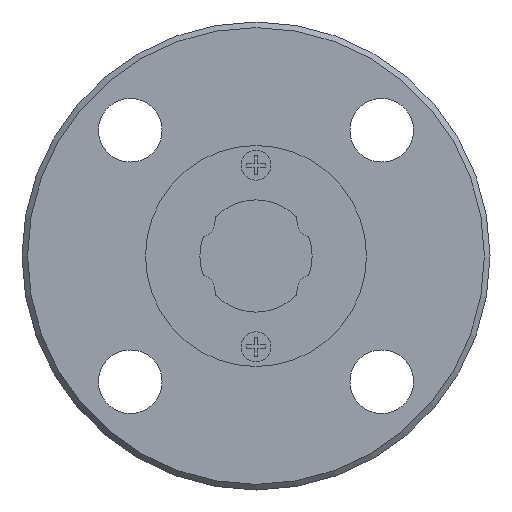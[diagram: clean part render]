
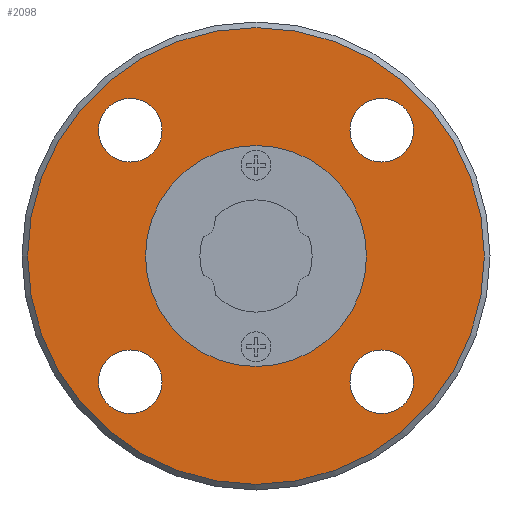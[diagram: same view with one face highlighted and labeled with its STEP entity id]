
A CAD part, left-side view. The second image highlights one B-rep face of the part: STEP entity #2098.
In plain terms, the highlighted planar face has unit normal (-1, 0, 0).
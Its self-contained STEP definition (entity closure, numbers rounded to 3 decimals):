
#48=PLANE('',#2319);
#702=ORIENTED_EDGE('',*,*,#1233,.F.);
#703=ORIENTED_EDGE('',*,*,#1234,.F.);
#704=ORIENTED_EDGE('',*,*,#1235,.F.);
#705=ORIENTED_EDGE('',*,*,#1236,.F.);
#706=ORIENTED_EDGE('',*,*,#1237,.F.);
#707=ORIENTED_EDGE('',*,*,#1232,.T.);
#1232=EDGE_CURVE('',#1508,#1508,#1676,.T.);
#1233=EDGE_CURVE('',#1509,#1509,#1677,.T.);
#1234=EDGE_CURVE('',#1510,#1510,#1678,.F.);
#1235=EDGE_CURVE('',#1511,#1511,#1679,.F.);
#1236=EDGE_CURVE('',#1512,#1512,#1680,.F.);
#1237=EDGE_CURVE('',#1513,#1513,#1681,.F.);
#1508=VERTEX_POINT('',#3339);
#1509=VERTEX_POINT('',#3342);
#1510=VERTEX_POINT('',#3344);
#1511=VERTEX_POINT('',#3346);
#1512=VERTEX_POINT('',#3348);
#1513=VERTEX_POINT('',#3350);
#1676=CIRCLE('',#2318,5.9);
#1677=CIRCLE('',#2320,12.2);
#1678=CIRCLE('',#2321,1.7);
#1679=CIRCLE('',#2322,1.7);
#1680=CIRCLE('',#2323,1.7);
#1681=CIRCLE('',#2324,1.7);
#1732=EDGE_LOOP('',(#702));
#1733=EDGE_LOOP('',(#703));
#1734=EDGE_LOOP('',(#704));
#1735=EDGE_LOOP('',(#705));
#1736=EDGE_LOOP('',(#706));
#1737=EDGE_LOOP('',(#707));
#1896=FACE_BOUND('',#1732,.T.);
#1897=FACE_BOUND('',#1733,.T.);
#1898=FACE_BOUND('',#1734,.T.);
#1899=FACE_BOUND('',#1735,.T.);
#1900=FACE_BOUND('',#1736,.T.);
#1901=FACE_BOUND('',#1737,.T.);
#2098=ADVANCED_FACE('',(#1896,#1897,#1898,#1899,#1900,#1901),#48,.F.);
#2318=AXIS2_PLACEMENT_3D('',#3338,#2695,#2696);
#2319=AXIS2_PLACEMENT_3D('',#3340,#2697,#2698);
#2320=AXIS2_PLACEMENT_3D('',#3341,#2699,#2700);
#2321=AXIS2_PLACEMENT_3D('',#3343,#2701,#2702);
#2322=AXIS2_PLACEMENT_3D('',#3345,#2703,#2704);
#2323=AXIS2_PLACEMENT_3D('',#3347,#2705,#2706);
#2324=AXIS2_PLACEMENT_3D('',#3349,#2707,#2708);
#2695=DIRECTION('',(1.,0.,0.));
#2696=DIRECTION('',(0.,0.,-1.));
#2697=DIRECTION('',(1.,0.,0.));
#2698=DIRECTION('',(0.,0.,-1.));
#2699=DIRECTION('',(1.,0.,0.));
#2700=DIRECTION('',(0.,0.,-1.));
#2701=DIRECTION('',(1.,0.,0.));
#2702=DIRECTION('',(0.,0.,-1.));
#2703=DIRECTION('',(1.,0.,0.));
#2704=DIRECTION('',(0.,0.,-1.));
#2705=DIRECTION('',(1.,0.,0.));
#2706=DIRECTION('',(0.,0.,-1.));
#2707=DIRECTION('',(1.,0.,0.));
#2708=DIRECTION('',(0.,0.,-1.));
#3338=CARTESIAN_POINT('',(-10.6,0.,0.));
#3339=CARTESIAN_POINT('',(-10.6,0.,-5.9));
#3340=CARTESIAN_POINT('',(-10.6,5.9,0.));
#3341=CARTESIAN_POINT('',(-10.6,0.,0.));
#3342=CARTESIAN_POINT('',(-10.6,0.,-12.2));
#3343=CARTESIAN_POINT('',(-10.6,-6.718,6.718));
#3344=CARTESIAN_POINT('',(-10.6,-6.718,5.018));
#3345=CARTESIAN_POINT('',(-10.6,-6.718,-6.718));
#3346=CARTESIAN_POINT('',(-10.6,-6.718,-8.418));
#3347=CARTESIAN_POINT('',(-10.6,6.718,-6.718));
#3348=CARTESIAN_POINT('',(-10.6,6.718,-8.418));
#3349=CARTESIAN_POINT('',(-10.6,6.718,6.718));
#3350=CARTESIAN_POINT('',(-10.6,6.718,5.018));
